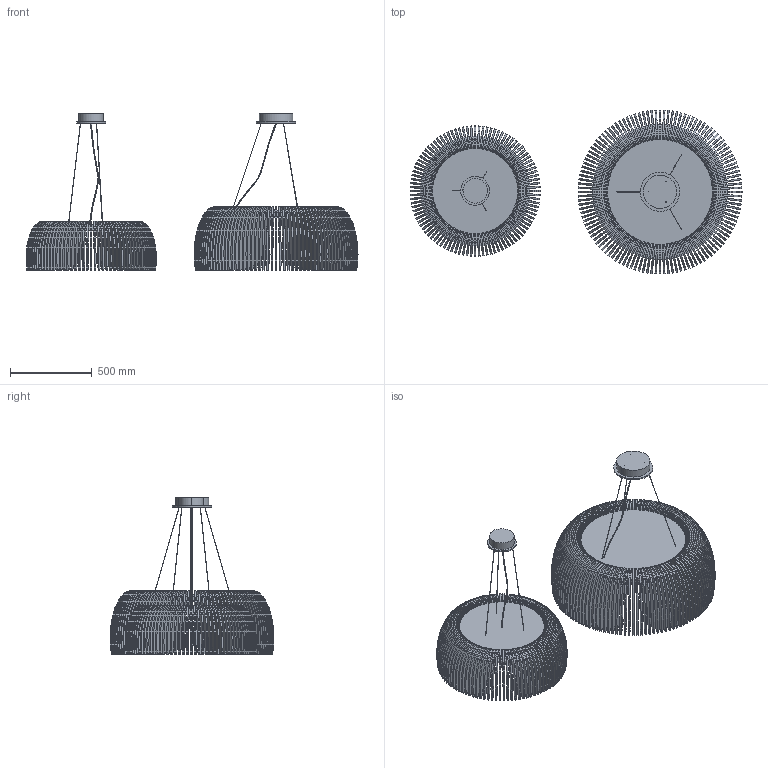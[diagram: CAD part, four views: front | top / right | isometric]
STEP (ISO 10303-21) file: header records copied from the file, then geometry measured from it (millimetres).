
FILE_DESCRIPTION(/* description */ (''),/* implementation_level */ '2;1');
FILE_NAME(/* name */ 'Breeze 3D file STEP',/* time_stamp */ '2024-05-22T08:35:31+02:00',/* author */ (''),/* organization */ (''),/* preprocessor_version */ 'ST-DEVELOPER v16.5',/* originating_system */ 'Rhino 7.36',/* authorisation */ '');
FILE_SCHEMA (('CONFIG_CONTROL_DESIGN'));
Products named in the file (1): Document
Bounding box: 2032.47 x 1003.72 x 959.67 mm (x, y, z)
Volume: 67434924.6 mm3; surface area: 14477264.1 mm2
Topology: 16 solids, 16 shells, 3442 faces, 10356 edges, 7170 vertices
Faces by surface type: plane 2186, cylinder 808, bspline 448
Entity records: 118405 total; most frequent: CARTESIAN_POINT 58741, ORIENTED_EDGE 20712, EDGE_CURVE 10356, VERTEX_POINT 7170, EDGE_LOOP 3666, ADVANCED_FACE 3442, FACE_OUTER_BOUND 3442, B_SPLINE_CURVE_WITH_KNOTS 3363
